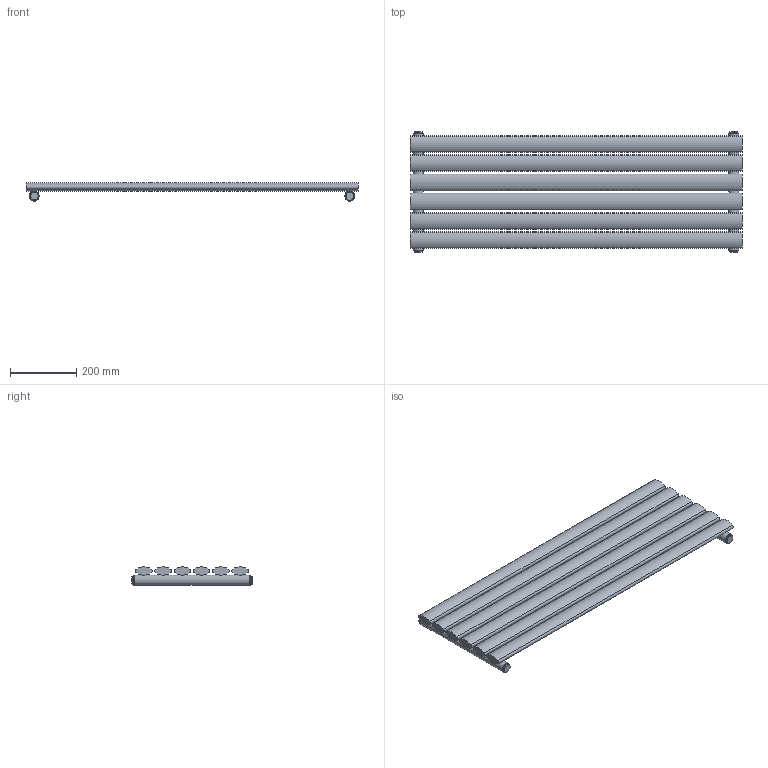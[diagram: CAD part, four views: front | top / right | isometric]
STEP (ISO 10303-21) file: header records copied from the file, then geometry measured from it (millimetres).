
FILE_DESCRIPTION(/* description */ (''),/* implementation_level */ '2;1');
FILE_NAME(/* name */ 'C:\Grzejniki\13DLUXRAD\pokojowe\FORTUNA\FORTUNA POJEDYNCZA 1000x352.iam.stp',/* time_stamp */ '2016-06-28T17:32:06+02:00',/* author */ ('m.szydziak'),/* organization */ (''),/* preprocessor_version */ 'ST-DEVELOPER v16.5',/* originating_system */ 'Autodesk Inventor 2017',/* authorisation */ '');
FILE_SCHEMA (('AUTOMOTIVE_DESIGN { 1 0 10303 214 3 1 1 }'));
Length unit declared in the file: millimetre
Products named in the file (5): FORTUNA POJEDYNCZA 1000x352; %%c30x1,5x352; 50x25x1,2x1000; zaślepka fi30 G0,5inch; korek
Assembly tree (16 placements, depth 2):
  FORTUNA POJEDYNCZA 1000x352
    %%c30x1,5x352  x2
    50x25x1,2x1000  x6
    zaślepka fi30 G0,5inch  x4
    korek  x4
Bounding box: 1000 x 364 x 54.86 mm (x, y, z)
Volume: 5864184.9 mm3; surface area: 869537.1 mm2
Topology: 16 solids, 16 shells, 132 faces, 328 edges, 228 vertices
Faces by surface type: plane 80, cylinder 52
Full cylindrical faces by diameter (mm): 5 x12, 18.631 x4, 24 x4, 27 x6, 30 x2
Entity records: 1631 total; most frequent: CARTESIAN_POINT 598, DIRECTION 198, ORIENTED_EDGE 150, AXIS2_PLACEMENT_3D 85, EDGE_CURVE 75, EDGE_LOOP 62, VERTEX_POINT 59, FACE_OUTER_BOUND 35
